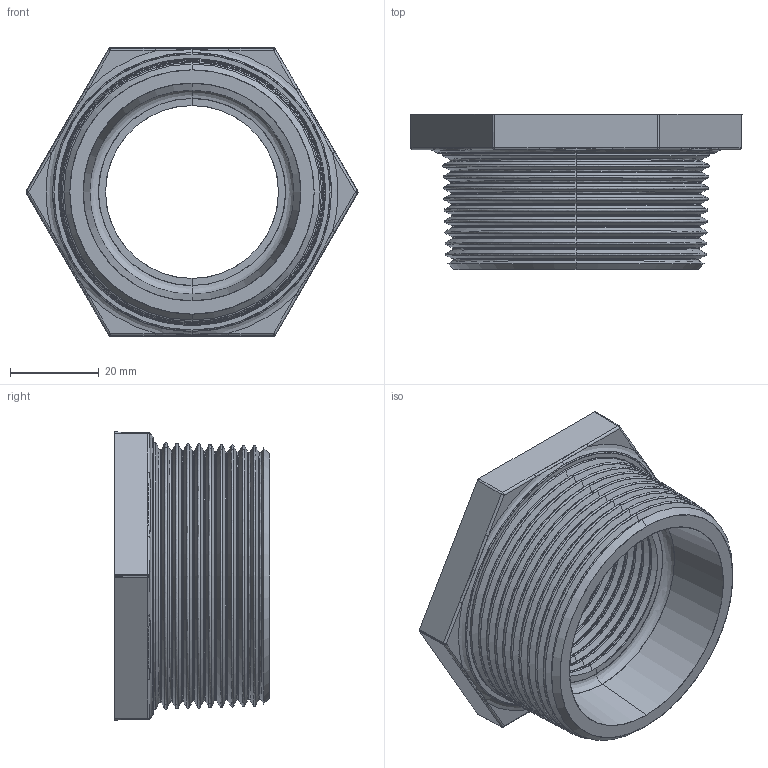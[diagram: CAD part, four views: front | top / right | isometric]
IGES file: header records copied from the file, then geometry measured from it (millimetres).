
Start section: SolidWorks IGES file using analytic representation for surfaces
Global section: file name: C:\Users\Joel Rosa\Desktop\Tubulação\12-01-OK\12-01-046.IGS; native system: SolidWorks 2011; preprocessor: SolidWorks 2011; author: Joel Rosa; date: 121203.200532; units: millimetre
Bounding box: 74.9 x 35 x 65 mm (x, y, z)
Surface area: 20510.9 mm2 (no closed solid volume)
Topology: 0 solids, 0 shells, 385 faces, 2925 edges, 2925 vertices
Faces by surface type: bspline 271, revolution 114
